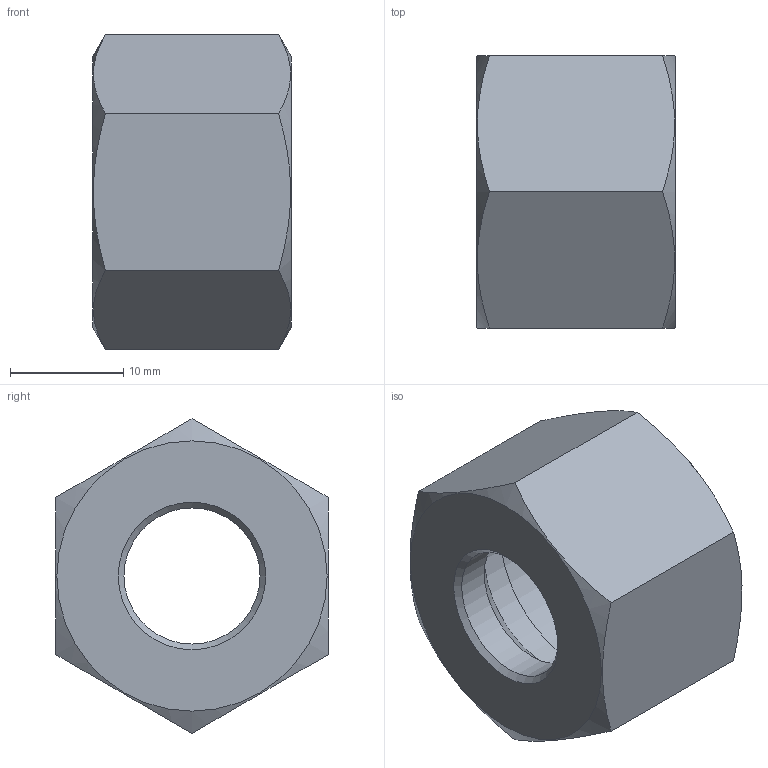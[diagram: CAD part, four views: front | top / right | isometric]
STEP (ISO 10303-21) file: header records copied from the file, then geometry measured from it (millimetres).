
FILE_DESCRIPTION( ( 'Unknown' ), '1' );
FILE_NAME( 'C:/Users/p.nanko/Desktop/3D SR/M12S.stp', 'Unknown', ( 'Peter Nanko' ), ( 'Armaturen Arndt' ), 'PSStep 14.0', 'Solid Edge ST4', ' ' );
FILE_SCHEMA( ( 'AUTOMOTIVE_DESIGN { 1 0 10303 214 1 1 1 1 }' ) );
Length unit declared in the file: millimetre
Products named in the file (1): 1
Bounding box: 17.5 x 24 x 27.71 mm (x, y, z)
Volume: 4719.8 mm3; surface area: 3007.5 mm2
Topology: 1 solids, 1 shells, 17 faces, 39 edges, 25 vertices
Faces by surface type: plane 9, cone 5, cylinder 3
Full cylindrical faces by diameter (mm): 12 x1, 18.376 x2
Entity records: 676 total; most frequent: CARTESIAN_POINT 200, DIRECTION 62, ORIENTED_EDGE 56, AXIS2_PLACEMENT_3D 28, EDGE_LOOP 28, EDGE_CURVE 28, VERTEX_POINT 22, FACE_OUTER_BOUND 20
